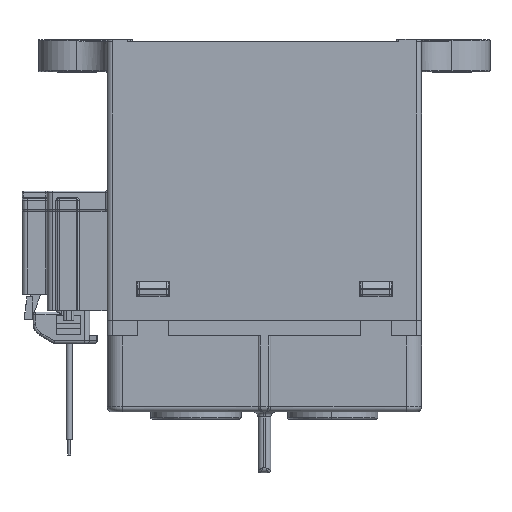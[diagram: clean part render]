
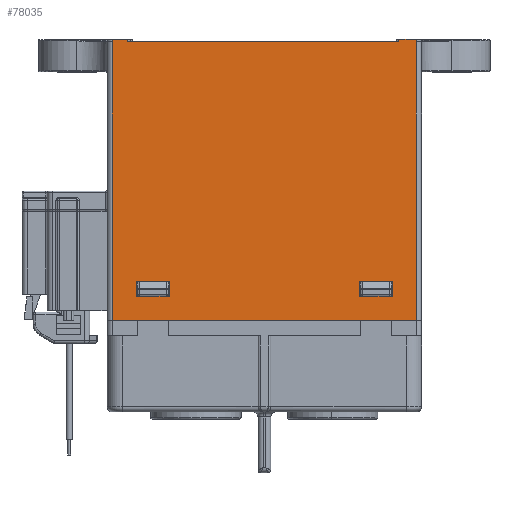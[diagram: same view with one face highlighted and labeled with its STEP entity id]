
A CAD part, front view. The second image highlights one B-rep face of the part: STEP entity #78035.
In plain terms, the highlighted planar face has unit normal (0, -1, 0) as drawn and (0, 0, 1) by its records, which use the part's own axes.
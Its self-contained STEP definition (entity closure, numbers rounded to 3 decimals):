
#1422 = ORIENTED_EDGE ( 'NONE', *, *, #42760, .F. ) ;
#3618 = LINE ( 'NONE', #104464, #138110 ) ;
#3747 = ORIENTED_EDGE ( 'NONE', *, *, #47812, .T. ) ;
#5615 = ORIENTED_EDGE ( 'NONE', *, *, #108418, .F. ) ;
#7298 = VERTEX_POINT ( 'NONE', #131144 ) ;
#7650 = VECTOR ( 'NONE', #31314, 1000. ) ;
#11615 = DIRECTION ( 'NONE',  ( 1., 0., 0. ) ) ;
#13317 = ORIENTED_EDGE ( 'NONE', *, *, #151556, .T. ) ;
#13978 = VERTEX_POINT ( 'NONE', #111211 ) ;
#14841 = ORIENTED_EDGE ( 'NONE', *, *, #152686, .F. ) ;
#16068 = LINE ( 'NONE', #37828, #85401 ) ;
#17341 = VERTEX_POINT ( 'NONE', #86818 ) ;
#18258 = EDGE_LOOP ( 'NONE', ( #154325, #34560, #51733, #67845 ) ) ;
#21742 = VERTEX_POINT ( 'NONE', #137273 ) ;
#25087 = CARTESIAN_POINT ( 'NONE',  ( -25.25, 50.2, 22.5 ) ) ;
#26694 = CARTESIAN_POINT ( 'NONE',  ( 30., -0.5, 22.5 ) ) ;
#26958 = VERTEX_POINT ( 'NONE', #128655 ) ;
#28170 = DIRECTION ( 'NONE',  ( 1., 0., 0. ) ) ;
#29392 = CARTESIAN_POINT ( 'NONE',  ( -30., -0.5, 22.5 ) ) ;
#29563 = EDGE_CURVE ( 'NONE', #26958, #36933, #144380, .T. ) ;
#31314 = DIRECTION ( 'NONE',  ( 0., 1., 0. ) ) ;
#31682 = VERTEX_POINT ( 'NONE', #102812 ) ;
#34560 = ORIENTED_EDGE ( 'NONE', *, *, #103984, .F. ) ;
#36933 = VERTEX_POINT ( 'NONE', #25087 ) ;
#37061 = AXIS2_PLACEMENT_3D ( 'NONE', #69210, #160202, #82301 ) ;
#37701 = LINE ( 'NONE', #26694, #168041 ) ;
#37828 = CARTESIAN_POINT ( 'NONE',  ( 31., 0., 22.5 ) ) ;
#38242 = VERTEX_POINT ( 'NONE', #152778 ) ;
#38427 = CARTESIAN_POINT ( 'NONE',  ( -26.5, -0.5, 22.5 ) ) ;
#38636 = ORIENTED_EDGE ( 'NONE', *, *, #41883, .T. ) ;
#38929 = VECTOR ( 'NONE', #81132, 1000. ) ;
#39184 = FACE_OUTER_BOUND ( 'NONE', #150481, .T. ) ;
#40203 = CARTESIAN_POINT ( 'NONE',  ( 31., 55., 22.5 ) ) ;
#40896 = VERTEX_POINT ( 'NONE', #146626 ) ;
#41669 = ORIENTED_EDGE ( 'NONE', *, *, #125566, .F. ) ;
#41883 = EDGE_CURVE ( 'NONE', #99616, #81300, #109782, .T. ) ;
#42760 = EDGE_CURVE ( 'NONE', #112847, #21742, #150292, .T. ) ;
#42950 = PLANE ( 'NONE',  #37061 ) ;
#44621 = DIRECTION ( 'NONE',  ( 0., 1., 0. ) ) ;
#45088 = DIRECTION ( 'NONE',  ( -1., 0., 0. ) ) ;
#46487 = EDGE_LOOP ( 'NONE', ( #41669, #5615, #1422, #69039 ) ) ;
#47812 = EDGE_CURVE ( 'NONE', #13978, #40896, #37701, .T. ) ;
#48606 = VECTOR ( 'NONE', #111461, 1000. ) ;
#49760 = LINE ( 'NONE', #40203, #84461 ) ;
#49904 = VECTOR ( 'NONE', #82314, 1000. ) ;
#51733 = ORIENTED_EDGE ( 'NONE', *, *, #29563, .F. ) ;
#52746 = CARTESIAN_POINT ( 'NONE',  ( -25.25, 50.2, 22.5 ) ) ;
#53988 = LINE ( 'NONE', #55479, #49904 ) ;
#55479 = CARTESIAN_POINT ( 'NONE',  ( 30., 55., 22.5 ) ) ;
#56138 = VECTOR ( 'NONE', #65951, 1000. ) ;
#56710 = VERTEX_POINT ( 'NONE', #108947 ) ;
#58386 = VECTOR ( 'NONE', #120560, 1000. ) ;
#59324 = VERTEX_POINT ( 'NONE', #90434 ) ;
#59571 = VECTOR ( 'NONE', #98388, 1000. ) ;
#63437 = DIRECTION ( 'NONE',  ( 0., 1., 0. ) ) ;
#63670 = LINE ( 'NONE', #111540, #59571 ) ;
#65951 = DIRECTION ( 'NONE',  ( 0., 1., 0. ) ) ;
#66908 = CARTESIAN_POINT ( 'NONE',  ( 25.25, 47.2, 22.5 ) ) ;
#67845 = ORIENTED_EDGE ( 'NONE', *, *, #104734, .F. ) ;
#69039 = ORIENTED_EDGE ( 'NONE', *, *, #130640, .F. ) ;
#69210 = CARTESIAN_POINT ( 'NONE',  ( 31., 55., 22.5 ) ) ;
#69685 = EDGE_CURVE ( 'NONE', #72672, #94762, #75513, .T. ) ;
#70895 = CARTESIAN_POINT ( 'NONE',  ( 27., -0.5, 22.5 ) ) ;
#71364 = CARTESIAN_POINT ( 'NONE',  ( -30., -0.5, 22.5 ) ) ;
#72672 = VERTEX_POINT ( 'NONE', #38427 ) ;
#73625 = LINE ( 'NONE', #93064, #38929 ) ;
#75090 = VECTOR ( 'NONE', #117722, 1000. ) ;
#75513 = LINE ( 'NONE', #154554, #144810 ) ;
#75948 = CARTESIAN_POINT ( 'NONE',  ( -25.25, 50.2, 22.5 ) ) ;
#77102 = EDGE_CURVE ( 'NONE', #99616, #38242, #49760, .T. ) ;
#77952 = FACE_BOUND ( 'NONE', #46487, .T. ) ;
#78035 = ADVANCED_FACE ( 'NONE', ( #77952, #143180, #39184 ), #42950, .F. ) ;
#79834 = CARTESIAN_POINT ( 'NONE',  ( -25.25, 47.2, 22.5 ) ) ;
#81132 = DIRECTION ( 'NONE',  ( 1., 0., 0. ) ) ;
#81300 = VERTEX_POINT ( 'NONE', #153231 ) ;
#82301 = DIRECTION ( 'NONE',  ( -1., 0., 0. ) ) ;
#82314 = DIRECTION ( 'NONE',  ( 0., 1., 0. ) ) ;
#84461 = VECTOR ( 'NONE', #92068, 1000. ) ;
#85023 = ORIENTED_EDGE ( 'NONE', *, *, #117004, .F. ) ;
#85269 = CARTESIAN_POINT ( 'NONE',  ( -30., 55., 22.5 ) ) ;
#85401 = VECTOR ( 'NONE', #11615, 1000. ) ;
#86818 = CARTESIAN_POINT ( 'NONE',  ( 18.75, 47.2, 22.5 ) ) ;
#88907 = EDGE_CURVE ( 'NONE', #117756, #142518, #73625, .T. ) ;
#89079 = LINE ( 'NONE', #70895, #158299 ) ;
#89875 = LINE ( 'NONE', #91751, #120435 ) ;
#90434 = CARTESIAN_POINT ( 'NONE',  ( 18.75, 50.2, 22.5 ) ) ;
#90832 = LINE ( 'NONE', #144050, #56138 ) ;
#91216 = VECTOR ( 'NONE', #45088, 1000. ) ;
#91751 = CARTESIAN_POINT ( 'NONE',  ( 25.25, 50.2, 22.5 ) ) ;
#92068 = DIRECTION ( 'NONE',  ( 1., 0., 0. ) ) ;
#92799 = CARTESIAN_POINT ( 'NONE',  ( -26.5, 0., 22.5 ) ) ;
#92843 = DIRECTION ( 'NONE',  ( -1., 0., 0. ) ) ;
#93064 = CARTESIAN_POINT ( 'NONE',  ( -25.25, 47.2, 22.5 ) ) ;
#94762 = VERTEX_POINT ( 'NONE', #92799 ) ;
#98388 = DIRECTION ( 'NONE',  ( -1., 0., 0. ) ) ;
#99356 = LINE ( 'NONE', #71364, #91216 ) ;
#99616 = VERTEX_POINT ( 'NONE', #160555 ) ;
#102812 = CARTESIAN_POINT ( 'NONE',  ( -30., -0.5, 22.5 ) ) ;
#103984 = EDGE_CURVE ( 'NONE', #36933, #117756, #156273, .T. ) ;
#104464 = CARTESIAN_POINT ( 'NONE',  ( 18.75, 50.2, 22.5 ) ) ;
#104734 = EDGE_CURVE ( 'NONE', #142518, #26958, #90832, .T. ) ;
#107459 = ORIENTED_EDGE ( 'NONE', *, *, #132151, .F. ) ;
#108418 = EDGE_CURVE ( 'NONE', #21742, #59324, #89875, .T. ) ;
#108947 = CARTESIAN_POINT ( 'NONE',  ( 27., 0., 22.5 ) ) ;
#109475 = VECTOR ( 'NONE', #152784, 1000. ) ;
#109782 = LINE ( 'NONE', #85269, #48606 ) ;
#111211 = CARTESIAN_POINT ( 'NONE',  ( 30., -0.5, 22.5 ) ) ;
#111461 = DIRECTION ( 'NONE',  ( 0., -1., 0. ) ) ;
#111540 = CARTESIAN_POINT ( 'NONE',  ( 30., -0.5, 22.5 ) ) ;
#112847 = VERTEX_POINT ( 'NONE', #158861 ) ;
#117004 = EDGE_CURVE ( 'NONE', #31682, #81300, #158220, .T. ) ;
#117450 = VECTOR ( 'NONE', #28170, 1000. ) ;
#117722 = DIRECTION ( 'NONE',  ( -1., 0., 0. ) ) ;
#117756 = VERTEX_POINT ( 'NONE', #79834 ) ;
#117825 = DIRECTION ( 'NONE',  ( 0., 1., 0. ) ) ;
#119453 = EDGE_CURVE ( 'NONE', #13978, #7298, #63670, .T. ) ;
#120435 = VECTOR ( 'NONE', #92843, 1000. ) ;
#120560 = DIRECTION ( 'NONE',  ( 0., 1., 0. ) ) ;
#122473 = CARTESIAN_POINT ( 'NONE',  ( 25.25, 50.2, 22.5 ) ) ;
#123289 = ORIENTED_EDGE ( 'NONE', *, *, #142449, .T. ) ;
#123460 = ORIENTED_EDGE ( 'NONE', *, *, #119453, .F. ) ;
#125566 = EDGE_CURVE ( 'NONE', #59324, #17341, #3618, .T. ) ;
#128655 = CARTESIAN_POINT ( 'NONE',  ( -18.75, 50.2, 22.5 ) ) ;
#130616 = DIRECTION ( 'NONE',  ( 0., -1., 0. ) ) ;
#130640 = EDGE_CURVE ( 'NONE', #17341, #112847, #152060, .T. ) ;
#131144 = CARTESIAN_POINT ( 'NONE',  ( 27., -0.5, 22.5 ) ) ;
#131592 = ORIENTED_EDGE ( 'NONE', *, *, #77102, .F. ) ;
#132151 = EDGE_CURVE ( 'NONE', #7298, #56710, #89079, .T. ) ;
#137273 = CARTESIAN_POINT ( 'NONE',  ( 25.25, 50.2, 22.5 ) ) ;
#138110 = VECTOR ( 'NONE', #130616, 1000. ) ;
#142449 = EDGE_CURVE ( 'NONE', #40896, #38242, #53988, .T. ) ;
#142518 = VERTEX_POINT ( 'NONE', #160798 ) ;
#143180 = FACE_BOUND ( 'NONE', #18258, .T. ) ;
#144050 = CARTESIAN_POINT ( 'NONE',  ( -18.75, 50.2, 22.5 ) ) ;
#144380 = LINE ( 'NONE', #52746, #75090 ) ;
#144810 = VECTOR ( 'NONE', #63437, 1000. ) ;
#146626 = CARTESIAN_POINT ( 'NONE',  ( 30., 0., 22.5 ) ) ;
#150241 = ORIENTED_EDGE ( 'NONE', *, *, #69685, .T. ) ;
#150292 = LINE ( 'NONE', #122473, #7650 ) ;
#150481 = EDGE_LOOP ( 'NONE', ( #3747, #123289, #131592, #38636, #85023, #14841, #150241, #13317, #107459, #123460 ) ) ;
#151556 = EDGE_CURVE ( 'NONE', #94762, #56710, #16068, .T. ) ;
#152060 = LINE ( 'NONE', #66908, #117450 ) ;
#152686 = EDGE_CURVE ( 'NONE', #72672, #31682, #99356, .T. ) ;
#152778 = CARTESIAN_POINT ( 'NONE',  ( 30., 55., 22.5 ) ) ;
#152784 = DIRECTION ( 'NONE',  ( 0., -1., 0. ) ) ;
#153231 = CARTESIAN_POINT ( 'NONE',  ( -30., 0., 22.5 ) ) ;
#154325 = ORIENTED_EDGE ( 'NONE', *, *, #88907, .F. ) ;
#154554 = CARTESIAN_POINT ( 'NONE',  ( -26.5, -0.5, 22.5 ) ) ;
#156273 = LINE ( 'NONE', #75948, #109475 ) ;
#158220 = LINE ( 'NONE', #29392, #58386 ) ;
#158299 = VECTOR ( 'NONE', #44621, 1000. ) ;
#158861 = CARTESIAN_POINT ( 'NONE',  ( 25.25, 47.2, 22.5 ) ) ;
#160202 = DIRECTION ( 'NONE',  ( 0., 0., -1. ) ) ;
#160555 = CARTESIAN_POINT ( 'NONE',  ( -30., 55., 22.5 ) ) ;
#160798 = CARTESIAN_POINT ( 'NONE',  ( -18.75, 47.2, 22.5 ) ) ;
#168041 = VECTOR ( 'NONE', #117825, 1000. ) ;
